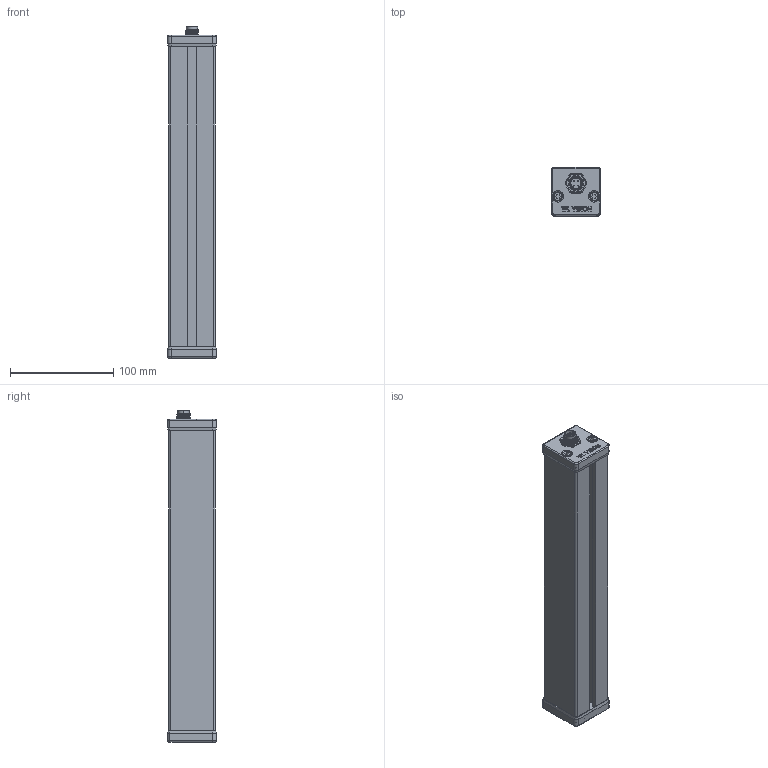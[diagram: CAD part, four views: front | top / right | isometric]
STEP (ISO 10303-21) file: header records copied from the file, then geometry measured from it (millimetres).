
FILE_DESCRIPTION (( 'STEP AP214' ), '1' );
FILE_NAME ('BARMIC4.STEP', '2012-02-17T15:00:24', ( ' ' ), ( '' ), 'SwSTEP 2.0', 'SolidWorks 2009', '' );
FILE_SCHEMA (( 'AUTOMOTIVE_DESIGN' ));
Length unit declared in the file: millimetre
Products named in the file (1): BARMIC4
Bounding box: 47 x 47 x 321.1 mm (x, y, z)
Volume: 172443.2 mm3; surface area: 165097.4 mm2
Topology: 1 solids, 3 shells, 606 faces, 1606 edges, 1035 vertices
Faces by surface type: plane 316, cylinder 158, bspline 66, torus 38, cone 20, sphere 8
Entity records: 34388 total; most frequent: CARTESIAN_POINT 12906, ORIENTED_EDGE 3180, DIRECTION 2914, EDGE_CURVE 1590, VERTEX_POINT 1027, VECTOR 984, LINE 984, AXIS2_PLACEMENT_3D 965
